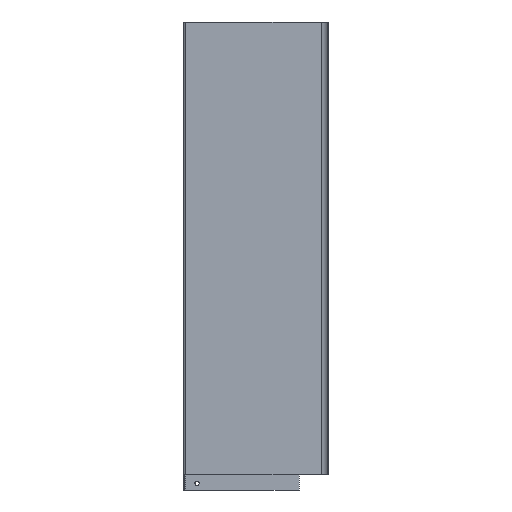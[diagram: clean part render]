
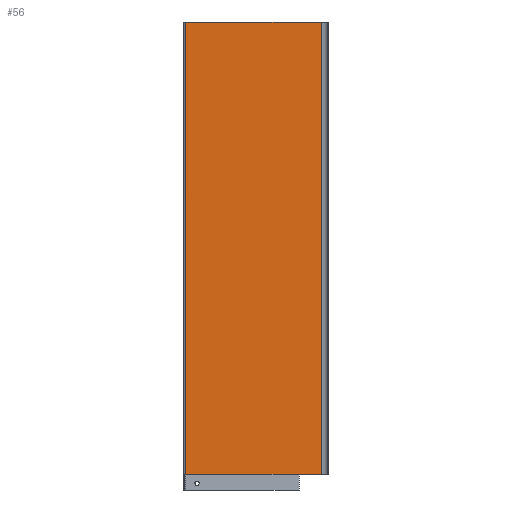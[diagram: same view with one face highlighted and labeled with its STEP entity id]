
A CAD part, left-side view. The second image highlights one B-rep face of the part: STEP entity #56.
In plain terms, the highlighted planar face has unit normal (-1, 0, 0).
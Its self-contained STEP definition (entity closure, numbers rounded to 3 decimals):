
#47 = VECTOR ( 'NONE', #632, 1000. ) ;
#54 = VECTOR ( 'NONE', #661, 1000. ) ;
#56 = ADVANCED_FACE ( 'NONE', ( #659 ), #470, .F. ) ;
#63 = DIRECTION ( 'NONE',  ( 0., 0., 1. ) ) ;
#68 = CARTESIAN_POINT ( 'NONE',  ( -8., -144.438, -699.266 ) ) ;
#103 = EDGE_CURVE ( 'NONE', #646, #335, #451, .T. ) ;
#131 = CARTESIAN_POINT ( 'NONE',  ( -8., -144.438, 0. ) ) ;
#180 = VERTEX_POINT ( 'NONE', #545 ) ;
#247 = CARTESIAN_POINT ( 'NONE',  ( -8., 14.6, -699.266 ) ) ;
#274 = LINE ( 'NONE', #247, #54 ) ;
#278 = EDGE_CURVE ( 'NONE', #180, #646, #565, .T. ) ;
#307 = VERTEX_POINT ( 'NONE', #706 ) ;
#308 = ORIENTED_EDGE ( 'NONE', *, *, #103, .T. ) ;
#335 = VERTEX_POINT ( 'NONE', #851 ) ;
#395 = DIRECTION ( 'NONE',  ( 0., 1., 0. ) ) ;
#451 = LINE ( 'NONE', #467, #803 ) ;
#458 = EDGE_CURVE ( 'NONE', #180, #307, #274, .T. ) ;
#467 = CARTESIAN_POINT ( 'NONE',  ( -8., -144.438, -699.266 ) ) ;
#470 = PLANE ( 'NONE',  #532 ) ;
#491 = ORIENTED_EDGE ( 'NONE', *, *, #278, .T. ) ;
#532 = AXIS2_PLACEMENT_3D ( 'NONE', #68, #821, #395 ) ;
#538 = EDGE_CURVE ( 'NONE', #335, #307, #804, .T. ) ;
#545 = CARTESIAN_POINT ( 'NONE',  ( -8., 14.6, -529. ) ) ;
#549 = ORIENTED_EDGE ( 'NONE', *, *, #458, .F. ) ;
#560 = CARTESIAN_POINT ( 'NONE',  ( -8., -144.438, -529. ) ) ;
#565 = LINE ( 'NONE', #560, #47 ) ;
#602 = DIRECTION ( 'NONE',  ( 0., 1., 0. ) ) ;
#614 = VECTOR ( 'NONE', #602, 1000. ) ;
#632 = DIRECTION ( 'NONE',  ( 0., -1., 0. ) ) ;
#646 = VERTEX_POINT ( 'NONE', #826 ) ;
#659 = FACE_OUTER_BOUND ( 'NONE', #713, .T. ) ;
#661 = DIRECTION ( 'NONE',  ( 0., 0., 1. ) ) ;
#706 = CARTESIAN_POINT ( 'NONE',  ( -8., 14.6, 0. ) ) ;
#713 = EDGE_LOOP ( 'NONE', ( #491, #308, #801, #549 ) ) ;
#801 = ORIENTED_EDGE ( 'NONE', *, *, #538, .T. ) ;
#803 = VECTOR ( 'NONE', #63, 1000. ) ;
#804 = LINE ( 'NONE', #131, #614 ) ;
#821 = DIRECTION ( 'NONE',  ( 1., 0., 0. ) ) ;
#826 = CARTESIAN_POINT ( 'NONE',  ( -8., -144.438, -529. ) ) ;
#851 = CARTESIAN_POINT ( 'NONE',  ( -8., -144.438, 0. ) ) ;
